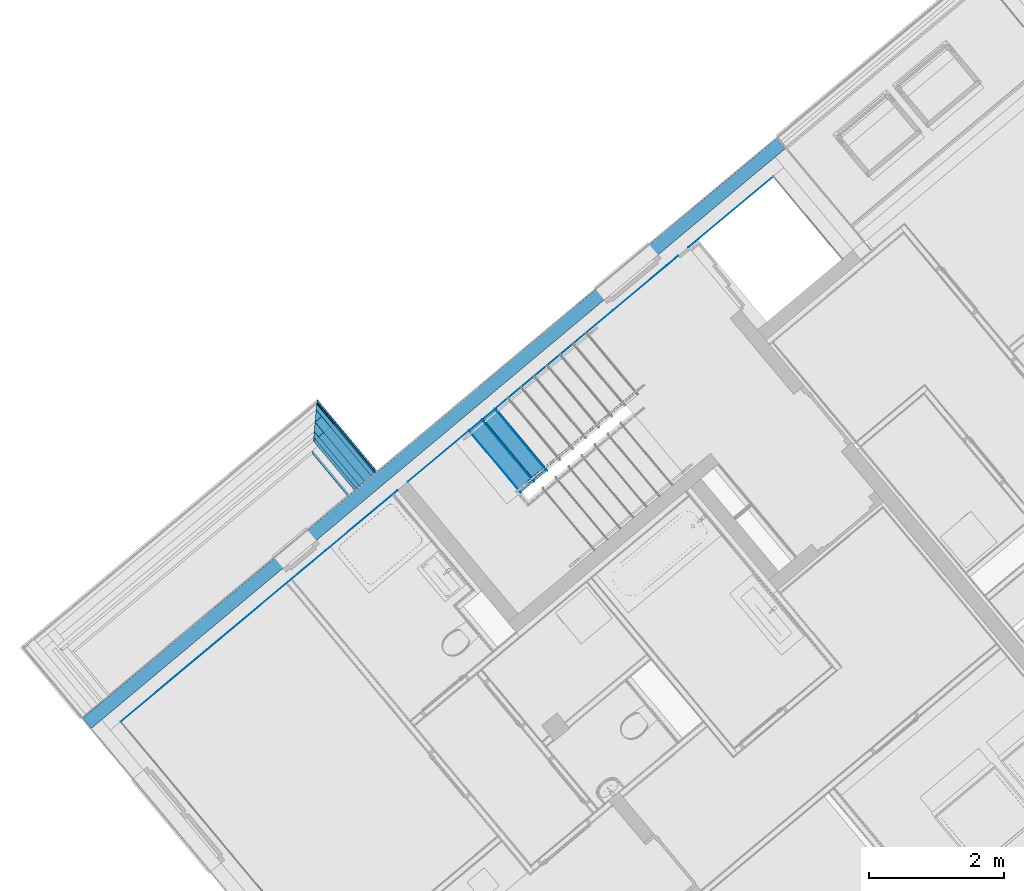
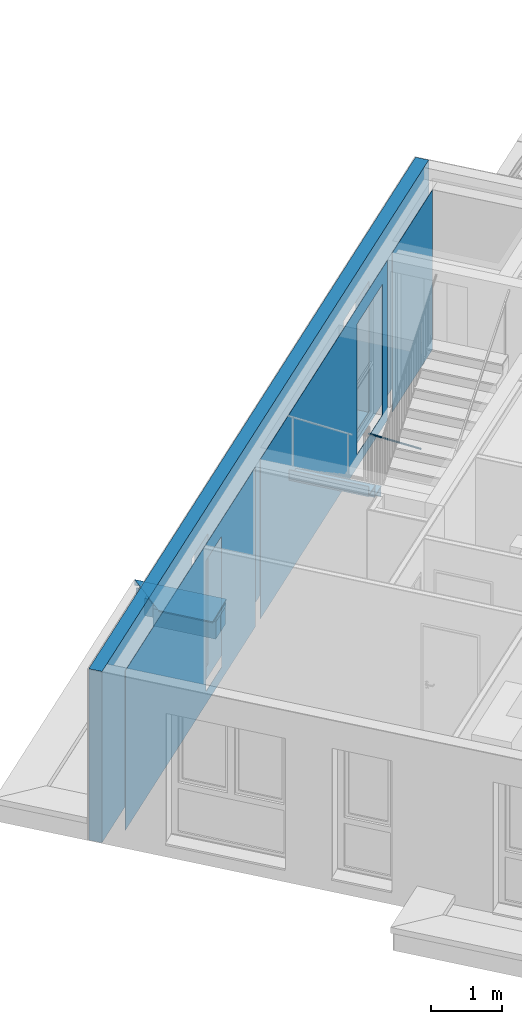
# One storey, part 34 of 61: 16 building element parts, 2 openings, 4 elements without a shape of their own.
"""IFC4 building model written with IfcOpenShell, lengths in metres."""

import ifcopenshell
import ifcopenshell.guid

model = None  # the IFC model being written
_history = None  # IfcOwnerHistory: only IFC2X3 demands one
_inside = {}  # id of a spatial element -> (the spatial element, [elements in it])
_under = {}  # id of a project, library or spatial element -> (it, [spatial elements below it])
_declared = {}  # id of a project -> (the project, [libraries it declares])
_typed = {}  # id of a type object -> (the type object, [elements of that type])
_made_of = {}  # id of a material, layer set ... -> (it, [elements and type objects made of it])


def new_model(schema):
    """Start an empty IFC model of exactly this schema.

    Asked for "IFC4X3", IfcOpenShell would pick the latest addendum, in which some entities
    have other attributes; the version numbers below select the first issue.
    IFC2X3 requires an IfcOwnerHistory on every rooted entity: one is made here for all.
    """
    global model, _history
    if schema == "IFC4X3":
        model = ifcopenshell.file(schema_version=(4, 3, 0, 0))
    else:
        model = ifcopenshell.file(schema=schema)
    _inside.clear()
    _under.clear()
    _declared.clear()
    _typed.clear()
    _made_of.clear()
    _history = None
    if model.schema == "IFC2X3":
        org = make("IfcOrganization", Name="unknown")
        user = make(
            "IfcPersonAndOrganization",
            ThePerson=make("IfcPerson", FamilyName="unknown"),
            TheOrganization=org,
        )
        app = make(
            "IfcApplication",
            ApplicationDeveloper=org,
            Version="unknown",
            ApplicationFullName="unknown",
            ApplicationIdentifier="unknown",
        )
        _history = make(
            "IfcOwnerHistory",
            OwningUser=user,
            OwningApplication=app,
            ChangeAction="ADDED",
            CreationDate=0,
        )
    return model


def make(cls, **values):
    """One entity of the class cls with the attributes given. An attribute that is None is left unset."""
    return model.create_entity(
        cls, **{name: value for name, value in values.items() if value is not None}
    )


def entity(cls, *values):
    """Any entity or typed value of the class cls, its attributes in the order of the schema. None: left unset."""
    e = model.create_entity(cls)
    for i, value in enumerate(values):
        if value is not None:
            e[i] = value
    return e


def rooted(cls, **values):
    """An entity with a GlobalId (a new one), such as an element, a storey or a relation."""
    return make(cls, GlobalId=ifcopenshell.guid.new(), OwnerHistory=_history, **values)


def si_unit(unit_type, name, prefix=None):
    """IfcSIUnit, for example si_unit("LENGTHUNIT", "METRE", prefix="MILLI")."""
    return make("IfcSIUnit", UnitType=unit_type, Prefix=prefix, Name=name)


def converted_unit(unit_type, name, factor, base, dimensions=None, offset=None):
    """IfcConversionBasedUnit, such as the inch: factor (a typed value) times the base unit."""
    return make(
        "IfcConversionBasedUnit"
        if offset is None
        else "IfcConversionBasedUnitWithOffset",
        ConversionOffset=offset,
        Dimensions=None
        if dimensions is None
        else entity("IfcDimensionalExponents", *dimensions),
        UnitType=unit_type,
        Name=name,
        ConversionFactor=make(
            "IfcMeasureWithUnit", ValueComponent=factor, UnitComponent=base
        ),
    )


def derived_unit(unit_type, elements):
    """IfcDerivedUnit: a product of units, each with its exponent."""
    return make(
        "IfcDerivedUnit",
        Elements=[
            make("IfcDerivedUnitElement", Unit=unit, Exponent=power)
            for unit, power in elements
        ],
        UnitType=unit_type,
    )


def assignment(units):
    """IfcUnitAssignment: the units of a project."""
    return None if units is None else make("IfcUnitAssignment", Units=units)


def point(xyz):
    """IfcCartesianPoint."""
    return None if xyz is None else make("IfcCartesianPoint", Coordinates=xyz)


def direction(xyz):
    """IfcDirection."""
    return None if xyz is None else make("IfcDirection", DirectionRatios=xyz)


def frame(location, z_axis=None, x_axis=None):
    """IfcAxis2Placement3D, a coordinate frame: its origin and axes. An axis left out is left unset."""
    return make(
        "IfcAxis2Placement3D",
        Location=point(location),
        Axis=direction(z_axis),
        RefDirection=direction(x_axis),
    )


def origin_with_axes():
    """The frame at (0, 0, 0) with the z axis (0, 0, 1) and the x axis (1, 0, 0) written out."""
    return frame((0.0, 0.0, 0.0), z_axis=(0.0, 0.0, 1.0), x_axis=(1.0, 0.0, 0.0))


def place(relative_to, where):
    """IfcLocalPlacement: puts the frame where relative to a parent placement (None: the world)."""
    return make(
        "IfcLocalPlacement", PlacementRelTo=relative_to, RelativePlacement=where
    )


def context(
    kind, dimensions, precision=None, world=None, true_north=None, identifier=None
):
    """IfcGeometricRepresentationContext, for example the 3D "Model" context."""
    return make(
        "IfcGeometricRepresentationContext",
        ContextIdentifier=identifier,
        ContextType=kind,
        CoordinateSpaceDimension=dimensions,
        Precision=precision,
        WorldCoordinateSystem=world,
        TrueNorth=true_north,
    )


def subcontext(parent, identifier, kind, view, scale=None):
    """IfcGeometricRepresentationSubContext, for example "Body" below "Model"."""
    return make(
        "IfcGeometricRepresentationSubContext",
        ContextIdentifier=identifier,
        ContextType=kind,
        ParentContext=parent,
        TargetScale=scale,
        TargetView=view,
    )


def project(units=None, contexts=None):
    """IfcProject with its units and contexts."""
    return rooted(
        "IfcProject",
        Name="project",
        RepresentationContexts=contexts,
        UnitsInContext=assignment(units),
    )


def spatial(cls, under=None, at=None, **own):
    """A site, building, storey or space (cls), placed at a placement, below another one or the project."""
    s = rooted(cls, ObjectPlacement=at, **own)
    if under is not None:
        _under.setdefault(under.id(), (under, []))[1].append(s)
    return s


def point_list(points):
    """IfcCartesianPointList2D or 3D."""
    cls = (
        "IfcCartesianPointList2D" if len(points[0]) == 2 else "IfcCartesianPointList3D"
    )
    return make(cls, CoordList=points)


def polygons(points, faces, closed=None, point_numbers=None):
    """IfcPolygonalFaceSet: a face is its outer loop, then its inner loops; points numbered from 1."""
    made = []
    for loops in faces:
        if len(loops) == 1:
            made.append(make("IfcIndexedPolygonalFace", CoordIndex=loops[0]))
        else:
            made.append(
                make(
                    "IfcIndexedPolygonalFaceWithVoids",
                    CoordIndex=loops[0],
                    InnerCoordIndices=loops[1:],
                )
            )
    return make(
        "IfcPolygonalFaceSet",
        Coordinates=point_list(points),
        Closed=closed,
        Faces=made,
        PnIndex=point_numbers,
    )


def shape(context_of_items, identifier, shape_type, items):
    """IfcShapeRepresentation: the items that make up one representation, for example the "Body"."""
    return make(
        "IfcShapeRepresentation",
        ContextOfItems=context_of_items,
        RepresentationIdentifier=identifier,
        RepresentationType=shape_type,
        Items=items,
    )


def material(Name=None, Category=None):
    """IfcMaterial."""
    return make("IfcMaterial", Name=Name, Category=Category)


def made_of(thing, what):
    """Note that an element or type object is made of a material, layer set ...; save() writes the relation."""
    if what is not None:
        _made_of.setdefault(what.id(), (what, []))[1].append(thing)
    return thing


def type_object(cls, material=None, **own):
    """A type object (cls), such as IfcWallType, which elements share."""
    return made_of(rooted(cls, **own), material)


def element(
    cls,
    number,
    at=None,
    inside=None,
    cuts=None,
    type_object=None,
    material=None,
    context=None,
    identifier="Body",
    shape_type=None,
    held_by="IfcProductDefinitionShape",
    body=None,
    shapes=None,
    **own,
):
    """One element of the class cls, such as IfcWall. Its Tag is "e" and its number.

    at: its placement. inside: the storey or other place that contains it. cuts: it is an
    opening in that element (IfcRelVoidsElement). A single representation is given by context,
    identifier, shape_type and body (its items); several are given by shapes. held_by: the class
    of the entity that holds the representations. save() writes the other relations.
    """
    e = rooted(cls, Tag="e%d" % number, ObjectPlacement=at, **own)
    if body is not None:
        shapes = [shape(context, identifier, shape_type, body)]
    if shapes is not None:
        e.Representation = make(held_by, Representations=shapes)
    if inside is not None:
        _inside.setdefault(inside.id(), (inside, []))[1].append(e)
    if cuts is not None:
        rooted(
            "IfcRelVoidsElement", RelatingBuildingElement=cuts, RelatedOpeningElement=e
        )
    if type_object is not None:
        _typed.setdefault(type_object.id(), (type_object, []))[1].append(e)
    return made_of(e, material)


def aggregate(whole, parts):
    """IfcRelAggregates: a whole, such as a stair, and the parts it consists of."""
    return rooted("IfcRelAggregates", RelatingObject=whole, RelatedObjects=parts)


def save(model, path):
    """Write the relations noted so far, then the file.

    IfcRelAggregates (storeys below a building ...), IfcRelContainedInSpatialStructure (elements
    in a storey), IfcRelDefinesByType, IfcRelAssociatesMaterial and IfcRelDeclares: one each for
    every whole, place, type object, material and project.
    """
    for whole, parts in _under.values():
        aggregate(whole, parts)
    for where, things in _inside.values():
        rooted(
            "IfcRelContainedInSpatialStructure",
            RelatedElements=things,
            RelatingStructure=where,
        )
    for kind, things in _typed.values():
        rooted("IfcRelDefinesByType", RelatedObjects=things, RelatingType=kind)
    for what, things in _made_of.values():
        rooted("IfcRelAssociatesMaterial", RelatedObjects=things, RelatingMaterial=what)
    for by, libraries in _declared.values():
        rooted("IfcRelDeclares", RelatingContext=by, RelatedDefinitions=libraries)
    model.write(path)


model = new_model("IFC4")

# Units and contexts
model_context = context("Model", 3, precision=1e-05, world=origin_with_axes(), true_north=direction((0.0, 1.0)))
body_context = subcontext(model_context, "Body", "Model", "MODEL_VIEW")
ifc_project = project(units=[si_unit("LENGTHUNIT", "METRE"), si_unit("AREAUNIT", "SQUARE_METRE"), si_unit("VOLUMEUNIT", "CUBIC_METRE"), converted_unit("PLANEANGLEUNIT", "DEGREE", entity("IfcPlaneAngleMeasure", 0.0174532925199), si_unit("PLANEANGLEUNIT", "RADIAN"), dimensions=[0, 0, 0, 0, 0, 0, 0]), converted_unit("TIMEUNIT", "Year", entity("IfcTimeMeasure", 31556926.0), si_unit("TIMEUNIT", "SECOND"), dimensions=[0, 0, 1, 0, 0, 0, 0]), si_unit("MASSUNIT", "GRAM", prefix="KILO"), si_unit("THERMODYNAMICTEMPERATUREUNIT", "DEGREE_CELSIUS"), si_unit("LUMINOUSINTENSITYUNIT", "LUMEN"), si_unit("ENERGYUNIT", "JOULE", prefix="MEGA"), derived_unit("THERMALCONDUCTANCEUNIT", [(si_unit("POWERUNIT", "WATT"), 1), (si_unit("LENGTHUNIT", "METRE"), -1), (si_unit("THERMODYNAMICTEMPERATUREUNIT", "KELVIN"), -1)]), derived_unit("SPECIFICHEATCAPACITYUNIT", [(si_unit("ENERGYUNIT", "JOULE"), 1), (si_unit("MASSUNIT", "GRAM", prefix="KILO"), -1), (si_unit("THERMODYNAMICTEMPERATUREUNIT", "KELVIN"), -1)]), derived_unit("MASSDENSITYUNIT", [(si_unit("MASSUNIT", "GRAM", prefix="KILO"), 1), (si_unit("VOLUMEUNIT", "CUBIC_METRE"), -1)])], contexts=[model_context])

# Site, building, storey
site_placement = place(None, frame((-0.00153261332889, -0.00661245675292, 0.0), z_axis=(0.0, 0.0, 1.0), x_axis=(1.0, 0.0, 0.0)))
site = spatial("IfcSite", under=ifc_project, at=site_placement, Name="Gelände", CompositionType="ELEMENT")
building_placement = place(site_placement, origin_with_axes())
building = spatial("IfcBuilding", under=site, at=building_placement, Name="Gebäude", CompositionType="ELEMENT")
storey_placement = place(building_placement, frame((0.0, 0.0, 5.7), z_axis=(0.0, 0.0, 1.0), x_axis=(1.0, 0.0, 0.0)))
storey = spatial("IfcBuildingStorey", under=building, at=storey_placement, Name="DG1", CompositionType="ELEMENT", Elevation=5.7)

# Wall, openings, building element parts
wall_type_1 = type_object("IfcWallType", Name="AW EG 420", PredefinedType="NOTDEFINED")
wall_1_placement = place(storey_placement, frame((-8.68307438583, 19.0183290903, 0.0), z_axis=(0.0, 0.0, 1.0), x_axis=(0.767365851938, 0.641209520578, 0.0)))
wall_1 = element("IfcWall", 1, at=wall_1_placement, inside=storey, type_object=wall_type_1, Name="Wand-002", PredefinedType="NOTDEFINED")
opening_1_placement = place(wall_1_placement, frame((10.4679738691, 0.0, 0.22), z_axis=(0.0, 0.0, 1.0), x_axis=(1.0, 0.0, 0.0)))
element("IfcOpeningElement", 2, at=opening_1_placement, cuts=wall_1, Name="Fenster-001", context=body_context, identifier="Reference", shape_type="Tessellation", body=[
    polygons([(-0.525, -0.215, 0.0), (-0.525, -0.215, 2.26), (-0.525, 6.42322125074, 2.26), (-0.525, 6.42322125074, 0.0), (-0.525, -6.84322125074, 0.0), (-0.525, -6.84322125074, 2.26), (0.525, -0.215, 2.26), (0.525, 6.42322125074, 2.26), (0.525, -6.84322125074, 2.26), (0.525, 6.42322125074, 0.0), (0.525, -0.215, 0.0), (0.525, -6.84322125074, 0.0)], [[[1, 2, 3, 4]], [[2, 1, 5, 6]], [[7, 8, 3, 2, 6, 9]], [[8, 10, 4, 3]], [[1, 4, 10, 11, 12, 5]], [[6, 5, 12, 9]], [[7, 11, 10, 8]], [[11, 7, 9, 12]]], closed=True),
])
opening_2_placement = place(wall_1_placement, frame((4.0502535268, 0.0, 0.22), z_axis=(0.0, 0.0, 1.0), x_axis=(1.0, 0.0, 0.0)))
element("IfcOpeningElement", 3, at=opening_2_placement, cuts=wall_1, Name="Fenster-001", context=body_context, identifier="Reference", shape_type="Tessellation", body=[
    polygons([(-0.325, -0.215, 0.0), (-0.325, -0.215, 2.26), (-0.325, 6.42322125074, 2.26), (-0.325, 6.42322125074, 0.0), (-0.325, -6.84322125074, 0.0), (-0.325, -6.84322125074, 2.26), (0.325, -0.215, 2.26), (0.325, 6.42322125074, 2.26), (0.325, -6.84322125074, 2.26), (0.325, 6.42322125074, 0.0), (0.325, -0.215, 0.0), (0.325, -6.84322125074, 0.0)], [[[1, 2, 3, 4]], [[2, 1, 5, 6]], [[7, 8, 3, 2, 6, 9]], [[8, 10, 4, 3]], [[1, 4, 10, 11, 12, 5]], [[6, 5, 12, 9]], [[7, 11, 10, 8]], [[11, 7, 9, 12]]], closed=True),
])
ifc_material_1 = material(Name="EPS 1")
building_element_part_1_placement = place(wall_1_placement, origin_with_axes())
building_element_part_1 = element("IfcBuildingElementPart", 4, at=building_element_part_1_placement, material=ifc_material_1, Name="EPS 1", PredefinedType="NOTDEFINED", context=body_context, shape_type="Tessellation", body=[
    polygons([(0.015, -0.015, 0.0), (0.015, -0.015, 2.96), (13.457173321, -0.015, 2.96), (13.457173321, -0.015, 0.0), (10.9929738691, -0.015, 0.22), (10.9929738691, -0.015, 2.48), (9.94297386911, -0.015, 2.48), (9.94297386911, -0.015, 0.22), (3.7252535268, -0.015, 0.22), (4.3752535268, -0.015, 0.22), (4.3752535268, -0.015, 2.48), (3.7252535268, -0.015, 2.48), (0.0149999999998, -0.215, 0.0), (0.0149999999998, -0.215, 2.96), (13.4571733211, -0.215, 2.96), (13.4571733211, -0.215, 0.0), (10.9929738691, -0.215, 2.48), (10.9929738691, -0.215, 0.22), (9.94297386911, -0.215, 2.48), (9.94297386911, -0.215, 0.22), (3.7252535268, -0.215, 0.22), (4.3752535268, -0.215, 0.22), (4.3752535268, -0.215, 2.48), (3.7252535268, -0.215, 2.48)], [[[1, 2, 3, 4], [5, 6, 7, 8], [9, 10, 11, 12]], [[2, 1, 13, 14]], [[2, 14, 15, 3]], [[16, 4, 3, 15]], [[13, 1, 4, 16]], [[17, 6, 5, 18]], [[19, 7, 6, 17]], [[20, 8, 7, 19]], [[18, 5, 8, 20]], [[21, 22, 10, 9]], [[22, 23, 11, 10]], [[23, 24, 12, 11]], [[24, 21, 9, 12]], [[14, 13, 16, 15], [19, 17, 18, 20], [21, 24, 23, 22]]], closed=True),
])
ifc_material_2 = material(Name="Zementputz")
building_element_part_2_placement = place(wall_1_placement, origin_with_axes())
building_element_part_2 = element("IfcBuildingElementPart", 5, at=building_element_part_2_placement, material=ifc_material_2, Name="Zementputz", PredefinedType="NOTDEFINED", context=body_context, shape_type="Tessellation", body=[
    polygons([(5.77520574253, -0.415, 2.76), (5.77520574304, -0.415, 0.0), (0.415, -0.415, 0.0), (0.415, -0.415, 2.76), (3.7252535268, -0.415, 0.22), (4.3752535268, -0.415, 0.22), (4.3752535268, -0.415, 2.48), (3.7252535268, -0.415, 2.48), (5.77520574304, -0.42, 0.0), (5.77520574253, -0.42, 2.76), (0.415, -0.42, 0.0), (0.415, -0.42, 2.76), (3.7252535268, -0.42, 0.22), (4.3752535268, -0.42, 0.22), (4.3752535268, -0.42, 2.48), (3.7252535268, -0.42, 2.48)], [[[1, 2, 3, 4], [5, 6, 7, 8]], [[9, 2, 1, 10]], [[11, 3, 2, 9]], [[4, 3, 11, 12]], [[1, 4, 12, 10]], [[13, 14, 6, 5]], [[14, 15, 7, 6]], [[15, 16, 8, 7]], [[16, 13, 5, 8]], [[11, 9, 10, 12], [13, 16, 15, 14]]], closed=True),
    polygons([(11.2076041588, -0.415, 0.0), (5.97520574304, -0.415, 0.0), (5.97520574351, -0.415, 2.76), (11.2076041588, -0.415, 2.76), (9.94297386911, -0.415, 0.22), (10.9929738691, -0.415, 0.22), (10.9929738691, -0.415, 2.48), (9.94297386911, -0.415, 2.48), (11.2076038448, -0.42, 0.0), (5.97520574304, -0.42, 0.0), (5.97520574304, -0.42, 2.76), (9.19449154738, -0.419999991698, 2.76), (11.2076038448, -0.42, 2.76), (9.94297386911, -0.419999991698, 0.22), (10.9929738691, -0.419999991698, 0.22), (10.9929738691, -0.419999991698, 2.48), (9.94297386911, -0.419999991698, 2.48)], [[[1, 2, 3, 4], [5, 6, 7, 8]], [[1, 9, 10, 2]], [[11, 3, 2, 10]], [[11, 12, 13, 4, 3]], [[1, 4, 13, 9]], [[14, 15, 6, 5]], [[15, 16, 7, 6]], [[16, 17, 8, 7]], [[17, 14, 5, 8]], [[10, 9, 13, 12, 11], [14, 17, 16, 15]]], closed=True),
    polygons([(13.0571733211, -0.415, 2.76), (13.0571733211, -0.42, 2.76), (13.0571733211, -0.42, 0.0), (13.0571733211, -0.415, 0.0), (13.0521733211, -0.42, 2.76), (11.4076067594, -0.415, 2.76), (11.4076038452, -0.42, 2.76), (11.4076038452, -0.42, 0.0), (11.4076041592, -0.415, 0.0)], [[[1, 2, 3, 4]], [[5, 2, 1, 6, 7]], [[5, 7, 8, 3, 2]], [[8, 9, 4, 3]], [[6, 1, 4, 9]], [[7, 6, 9, 8]]], closed=True),
])
aggregate(wall_1, [building_element_part_1, building_element_part_2])

# Space
space_placement = place(storey_placement, frame((0.280300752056, 22.6307267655, 0.22), z_axis=(0.0, 0.0, 1.0), x_axis=(-0.641244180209, 0.767336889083, 0.0)))
space = spatial("IfcSpace", under=storey, at=space_placement, CompositionType="ELEMENT", PredefinedType="NOTDEFINED")

# Railing, building element part
railing_type = type_object("IfcRailingType", Name="Geländerart", PredefinedType="NOTDEFINED")
railing_placement = place(space_placement, frame((1.35982515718, -0.251690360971, -0.17), z_axis=(0.0, 0.0, 1.0), x_axis=(-0.641244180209, -0.767336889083, 0.0)))
railing = element("IfcRailing", 6, at=railing_placement, inside=space, type_object=railing_type, Name="Geländer - 001", PredefinedType="NOTDEFINED")
ifc_material_3 = material(Name="BEKLEIDUNG")
building_element_part_3_placement = place(railing_placement, origin_with_axes())
building_element_part_3 = element("IfcBuildingElementPart", 7, at=building_element_part_3_placement, material=ifc_material_3, Name="BEKLEIDUNG", PredefinedType="NOTDEFINED", context=body_context, shape_type="Tessellation", body=[
    polygons([(-0.0295187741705, 0.0209453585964, 0.88817063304), (-0.0284358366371, 0.0221471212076, 0.890224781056), (-1.65968848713, -1.34078287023, 2.5475849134), (-1.66154123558, -1.34262781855, 2.54631289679), (-0.0308939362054, 0.0200933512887, 0.886116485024), (-0.0325195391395, 0.0196169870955, 0.884124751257), (-0.03434618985, 0.0195307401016, 0.88225594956), (-0.0363183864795, 0.0198372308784, 0.880566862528), (-0.0383762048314, 0.0205271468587, 0.879108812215), (-0.0404571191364, 0.0215795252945, 0.877926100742), (-0.0424979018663, 0.0229623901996, 0.877054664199), (-0.0444365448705, 0.0246337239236, 0.876520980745), (-0.0462141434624, 0.026542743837, 0.87634126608), (-0.0477766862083, 0.0286314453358, 0.876520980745), (-0.0490766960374, 0.030836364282, 0.877054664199), (-0.0500746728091, 0.0330905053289, 0.877926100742), (-0.050740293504, 0.0353253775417, 0.879108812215), (-0.0510533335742, 0.0374730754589, 0.880566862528), (-0.0510042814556, 0.0394683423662, 0.88225594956), (-0.0505946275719, 0.0412505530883, 0.884124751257), (-0.0498368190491, 0.0427655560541, 0.886116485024), (-0.0487538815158, 0.0439673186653, 0.88817063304), (-0.0473787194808, 0.0448193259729, 0.890224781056), (-0.0457531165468, 0.0452956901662, 0.892216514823), (-0.0439264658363, 0.04538193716, 0.89408531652), (-0.0419542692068, 0.0450754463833, 0.895774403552), (-0.0398964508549, 0.044385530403, 0.897232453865), (-0.0378155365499, 0.0433331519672, 0.898415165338), (-0.03577475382, 0.0419502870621, 0.899286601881), (-0.0338361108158, 0.0402789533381, 0.899820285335), (-0.0320585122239, 0.0383699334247, 0.9), (-0.030495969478, 0.0362812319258, 0.899820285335), (-0.0291959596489, 0.0340763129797, 0.899286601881), (-0.0281979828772, 0.0318221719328, 0.898415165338), (-0.0275323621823, 0.02958729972, 0.897232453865), (-0.0272193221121, 0.0274396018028, 0.895774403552), (-0.0272683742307, 0.0254443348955, 0.89408531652), (-0.0276780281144, 0.0236621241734, 0.892216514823), (-1.658184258, -1.33864422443, 2.54881828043), (-1.65707425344, -1.33627686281, 2.54997552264), (-1.65639220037, -1.33375271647, 2.55102147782), (-1.65615882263, -1.33114848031, 2.55192436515), (-1.65638121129, -1.32854328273, 2.55265675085), (-1.65705260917, -1.32601628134, 2.55319638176), (-1.6581526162, -1.3236442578, 2.55352686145), (-1.65964780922, -1.32149928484, 2.55363814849), (-1.66149275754, -1.31964653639, 2.55352686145), (-1.66363140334, -1.31814230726, 2.55319638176), (-1.66599876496, -1.31703230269, 2.55265675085), (-1.6685229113, -1.31635024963, 2.55192436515), (-1.67112714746, -1.31611687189, 2.55102147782), (-1.67373234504, -1.31633926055, 2.54997552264), (-1.67625934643, -1.31701065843, 2.54881828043), (-1.67863136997, -1.31811066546, 2.5475849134), (-1.68077634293, -1.31960585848, 2.54631289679), (-1.68262909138, -1.3214508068, 2.54504088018), (-1.68413332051, -1.3235894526, 2.54380751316), (-1.68524332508, -1.32595681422, 2.54265027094), (-1.68592537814, -1.32848096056, 2.54160431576), (-1.68615875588, -1.33108519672, 2.54070142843), (-1.68593636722, -1.3336903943, 2.53996904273), (-1.68526496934, -1.33621739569, 2.53942941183), (-1.68416496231, -1.33858941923, 2.53909893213), (-1.68266976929, -1.34073439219, 2.53898764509), (-1.68082482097, -1.34258714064, 2.53909893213), (-1.67868617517, -1.34409136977, 2.53942941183), (-1.67631881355, -1.34520137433, 2.53996904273), (-1.67379466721, -1.3458834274, 2.54070142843), (-1.67119043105, -1.34611680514, 2.54160431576), (-1.66858523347, -1.34589441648, 2.54265027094), (-1.66605823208, -1.3452230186, 2.54380751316), (-1.66368620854, -1.34412301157, 2.54504088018)], [[[1, 2, 3, 4]], [[1, 5, 6, 7, 8, 9, 10, 11, 12, 13, 14, 15, 16, 17, 18, 19, 20, 21, 22, 23, 24, 25, 26, 27, 28, 29, 30, 31, 32, 33, 34, 35, 36, 37, 38, 2]], [[2, 38, 39, 3]], [[4, 3, 39, 40, 41, 42, 43, 44, 45, 46, 47, 48, 49, 50, 51, 52, 53, 54, 55, 56, 57, 58, 59, 60, 61, 62, 63, 64, 65, 66, 67, 68, 69, 70, 71, 72]], [[5, 1, 4, 72]], [[6, 5, 72, 71]], [[7, 6, 71, 70]], [[8, 7, 70, 69]], [[9, 8, 69, 68]], [[10, 9, 68, 67]], [[11, 10, 67, 66]], [[12, 11, 66, 65]], [[13, 12, 65, 64]], [[14, 13, 64, 63]], [[15, 14, 63, 62]], [[16, 15, 62, 61]], [[17, 16, 61, 60]], [[18, 17, 60, 59]], [[19, 18, 59, 58]], [[20, 19, 58, 57]], [[21, 20, 57, 56]], [[22, 21, 56, 55]], [[23, 22, 55, 54]], [[24, 23, 54, 53]], [[25, 24, 53, 52]], [[26, 25, 52, 51]], [[27, 26, 51, 50]], [[28, 27, 50, 49]], [[29, 28, 49, 48]], [[30, 29, 48, 47]], [[31, 30, 47, 46]], [[32, 31, 46, 45]], [[33, 32, 45, 44]], [[34, 33, 44, 43]], [[35, 34, 43, 42]], [[36, 35, 42, 41]], [[37, 36, 41, 40]], [[38, 37, 40, 39]]], closed=True),
])
aggregate(railing, [building_element_part_3])

# Stair, building element parts
stair_type = type_object("IfcStairType", Name="Treppentyp", PredefinedType="NOTDEFINED")
stair_placement = place(space_placement, frame((2.55980055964, -0.50704333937, -0.17), z_axis=(0.0, 0.0, 1.0), x_axis=(-0.641244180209, -0.767336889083, 0.0)))
stair = element("IfcStair", 8, at=stair_placement, inside=space, type_object=stair_type, Name="Treppe - 001", PredefinedType="NOTDEFINED")
building_element_part_4_placement = place(stair_placement, origin_with_axes())
building_element_part_4 = element("IfcBuildingElementPart", 9, at=building_element_part_4_placement, material=ifc_material_3, Name="BEKLEIDUNG", PredefinedType="NOTDEFINED", context=body_context, shape_type="Tessellation", body=[
    polygons([(-1.55940773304, -1.30290275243, 1.39147058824), (-1.56708171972, -1.30931445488, 1.39147058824), (-0.797677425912, -2.23019285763, 1.39147058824), (-0.790003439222, -2.22378115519, 1.39147058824), (-1.55940773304, -1.30290275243, 1.23941176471), (-1.56708171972, -1.30931445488, 1.23941176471), (-0.797677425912, -2.23019285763, 1.23941176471), (-0.790003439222, -2.22378115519, 1.23941176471)], [[[1, 2, 3, 4]], [[1, 5, 6, 2]], [[2, 6, 7, 3]], [[4, 3, 7, 8]], [[5, 1, 4, 8]], [[6, 5, 8, 7]]], closed=True),
])
building_element_part_5_placement = place(stair_placement, origin_with_axes())
building_element_part_5 = element("IfcBuildingElementPart", 10, at=building_element_part_5_placement, material=ifc_material_3, Name="BEKLEIDUNG", PredefinedType="NOTDEFINED", context=body_context, shape_type="Tessellation", body=[
    polygons([(-1.75255458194, -1.46427912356, 1.56852941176), (-1.76022856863, -1.47069082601, 1.56852941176), (-0.990824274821, -2.39156922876, 1.56852941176), (-0.983150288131, -2.38515752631, 1.56852941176), (-1.75255458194, -1.46427912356, 1.41647058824), (-1.76022856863, -1.47069082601, 1.41647058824), (-0.990824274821, -2.39156922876, 1.41647058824), (-0.983150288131, -2.38515752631, 1.41647058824)], [[[1, 2, 3, 4]], [[1, 5, 6, 2]], [[2, 6, 7, 3]], [[4, 3, 7, 8]], [[5, 1, 4, 8]], [[6, 5, 8, 7]]], closed=True),
])
building_element_part_6_placement = place(stair_placement, origin_with_axes())
building_element_part_6 = element("IfcBuildingElementPart", 11, at=building_element_part_6_placement, material=ifc_material_3, Name="BEKLEIDUNG", PredefinedType="NOTDEFINED", context=body_context, shape_type="Tessellation", body=[
    polygons([(-1.94570143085, -1.62565549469, 1.74558823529), (-1.95337541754, -1.63206719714, 1.74558823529), (-1.18397112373, -2.55294559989, 1.74558823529), (-1.17629713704, -2.54653389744, 1.74558823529), (-1.94570143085, -1.62565549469, 1.59352941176), (-1.95337541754, -1.63206719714, 1.59352941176), (-1.18397112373, -2.55294559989, 1.59352941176), (-1.17629713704, -2.54653389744, 1.59352941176)], [[[1, 2, 3, 4]], [[1, 5, 6, 2]], [[2, 6, 7, 3]], [[4, 3, 7, 8]], [[5, 1, 4, 8]], [[6, 5, 8, 7]]], closed=True),
])
building_element_part_7_placement = place(stair_placement, origin_with_axes())
building_element_part_7 = element("IfcBuildingElementPart", 12, at=building_element_part_7_placement, material=ifc_material_3, Name="BEKLEIDUNG", PredefinedType="NOTDEFINED", context=body_context, shape_type="Tessellation", body=[
    polygons([(-0.778492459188, -2.21416360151, 1.39147058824), (-1.547896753, -1.29328519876, 1.39147058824), (-1.547896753, -1.29328519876, 1.41647058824), (-0.778492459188, -2.21416360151, 1.41647058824), (-0.99082427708, -2.39156923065, 1.39147058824), (-1.76022856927, -1.47069082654, 1.39147058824), (-1.76022856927, -1.47069082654, 1.41647058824), (-0.99082427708, -2.39156923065, 1.41647058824)], [[[1, 2, 3, 4]], [[1, 5, 6, 2]], [[2, 6, 7, 3]], [[4, 3, 7, 8]], [[5, 1, 4, 8]], [[6, 5, 8, 7]]], closed=True),
])
building_element_part_8_placement = place(stair_placement, origin_with_axes())
building_element_part_8 = element("IfcBuildingElementPart", 13, at=building_element_part_8_placement, material=ifc_material_3, Name="BEKLEIDUNG", PredefinedType="NOTDEFINED", context=body_context, shape_type="Tessellation", body=[
    polygons([(-0.971639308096, -2.37553997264, 1.56852941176), (-1.74104360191, -1.45466156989, 1.56852941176), (-1.74104360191, -1.45466156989, 1.59352941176), (-0.971639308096, -2.37553997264, 1.59352941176), (-1.16478615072, -2.53691633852, 1.56852941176), (-1.18397113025, -2.55294559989, 1.56852941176), (-1.95337541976, -1.63206719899, 1.56852941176), (-1.93419045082, -1.61603794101, 1.56852941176), (-1.93419045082, -1.61603794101, 1.59352941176), (-1.95337541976, -1.63206719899, 1.59352941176), (-1.18397113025, -2.55294559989, 1.59352941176), (-1.16478615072, -2.53691633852, 1.59352941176)], [[[1, 2, 3, 4]], [[1, 5, 6, 7, 8, 2]], [[2, 8, 9, 3]], [[4, 3, 9, 10, 11, 12]], [[5, 1, 4, 12]], [[6, 5, 12, 11]], [[7, 6, 11, 10]], [[8, 7, 10, 9]]], closed=True),
])
aggregate(stair, [building_element_part_4, building_element_part_5, building_element_part_6, building_element_part_7, building_element_part_8])

# Wall, building element parts
wall_type_2 = type_object("IfcWallType", Name="Bauteil - Attika Terrasse 1.DG 574 x 410", PredefinedType="NOTDEFINED")
wall_2_placement = place(storey_placement, frame((-5.20937569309, 23.4149390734, -0.2), z_axis=(0.0, 0.0, 1.0), x_axis=(0.641209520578, -0.767365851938, 0.0)))
wall_2 = element("IfcWall", 14, at=wall_2_placement, inside=storey, type_object=wall_type_2, Name="Wand-005", PredefinedType="NOTDEFINED")
building_element_part_9_placement = place(wall_2_placement, origin_with_axes())
building_element_part_9 = element("IfcBuildingElementPart", 15, at=building_element_part_9_placement, material=ifc_material_2, Name="Zementputz", PredefinedType="NOTDEFINED", context=body_context, shape_type="Tessellation", body=[
    polygons([(-0.199999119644, 0.214999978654, 0.498822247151), (-0.199999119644, 0.214999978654, 0.499999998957), (1.14643969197, 0.214999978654, 0.499999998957), (1.14643969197, 0.214999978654, 0.2), (-0.199999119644, 0.214999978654, 0.2), (-0.199999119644, 0.214999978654, 0.335), (-0.199999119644, 0.214999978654, 0.488695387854), (-0.199999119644, 0.214999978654, 0.49100648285), (-0.199999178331, 0.199999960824, 0.499999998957), (-0.199999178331, 0.199999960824, 0.498822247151), (1.14643969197, 0.199999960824, 0.499999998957), (1.14643969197, 0.199999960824, 0.2), (-0.199999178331, 0.199999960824, 0.2), (-0.199999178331, 0.199999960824, 0.335), (-0.199999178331, 0.199999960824, 0.488695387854), (-0.199999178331, 0.199999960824, 0.49100648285)], [[[1, 2, 3, 4, 5, 6, 7, 8]], [[9, 2, 1, 10]], [[2, 9, 11, 3]], [[4, 3, 11, 12]], [[13, 5, 4, 12]], [[14, 6, 5, 13]], [[15, 7, 6, 14]], [[16, 8, 7, 15]], [[10, 1, 8, 16]], [[9, 10, 16, 15, 14, 13, 12, 11]]], closed=True),
])
ifc_material_4 = material(Name="Vollholz")
building_element_part_10_placement = place(wall_2_placement, origin_with_axes())
building_element_part_10 = element("IfcBuildingElementPart", 16, at=building_element_part_10_placement, material=ifc_material_4, Name="Vollholz", PredefinedType="NOTDEFINED", context=body_context, shape_type="Tessellation", body=[
    polygons([(-0.130124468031, 0.130124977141, 0.584015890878), (-0.130124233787, 0.189996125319, 0.584015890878), (-0.130124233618, 0.190039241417, 0.575979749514), (-0.130124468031, 0.130124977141, 0.575979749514), (-0.189984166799, 0.189984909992, 0.586106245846), (1.14643969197, 0.189984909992, 0.586106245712), (1.14643969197, 0.190124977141, 0.560000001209), (-0.130124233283, 0.190124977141, 0.560000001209), (-0.13012423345, 0.190082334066, 0.567947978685), (-0.130124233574, 0.190050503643, 0.573880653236), (-0.130124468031, 0.130124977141, 0.573880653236), (-0.130124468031, 0.130124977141, 0.560000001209), (1.14643969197, 0.130124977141, 0.560000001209), (1.14643969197, 0.130124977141, 0.584015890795), (-0.130124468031, 0.130124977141, 0.567947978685)], [[[1, 2, 3, 4]], [[5, 2, 1]], [[2, 5, 6, 7, 8, 9, 10, 3]], [[3, 10, 11, 4]], [[12, 13, 14, 1, 4, 11, 15]], [[5, 1, 14, 6]], [[14, 13, 7, 6]], [[12, 8, 7, 13]], [[12, 15, 9, 8]], [[9, 15, 11, 10]]], closed=True),
])
building_element_part_11_placement = place(wall_2_placement, origin_with_axes())
building_element_part_11 = element("IfcBuildingElementPart", 17, at=building_element_part_11_placement, material=ifc_material_1, Name="EPS 1", PredefinedType="NOTDEFINED", context=body_context, shape_type="Tessellation", body=[
    polygons([(7.82254616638e-07, 0.19999996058, 0.498822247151), (7.82254616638e-07, 0.19999996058, 0.499999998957), (1.14643969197, 0.19999996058, 0.499999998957), (1.14643969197, 0.19999996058, 0.2), (7.82254616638e-07, 0.19999996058, 0.2), (7.82254616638e-07, 0.19999996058, 0.335), (7.82254616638e-07, 0.19999996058, 0.488695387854), (7.82254616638e-07, 0.19999996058, 0.49100648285), (-2.39907649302e-10, 2.39907649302e-10, 0.499999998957), (-2.39911202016e-10, 2.39911202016e-10, 0.498822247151), (1.14643969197, 2.39911202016e-10, 0.499999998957), (1.14643969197, 2.39911202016e-10, 0.2), (-2.39907649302e-10, 2.39911202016e-10, 0.2), (-2.39911202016e-10, 2.39911202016e-10, 0.335), (-2.39911202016e-10, 2.39911202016e-10, 0.488695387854), (-2.39911202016e-10, 2.39911202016e-10, 0.49100648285)], [[[1, 2, 3, 4, 5, 6, 7, 8]], [[9, 2, 1, 10]], [[2, 9, 11, 3]], [[12, 4, 3, 11]], [[13, 5, 4, 12]], [[14, 6, 5, 13]], [[15, 7, 6, 14]], [[16, 8, 7, 15]], [[10, 1, 8, 16]], [[9, 10, 16, 15, 14, 13, 12, 11]]], closed=True),
])
ifc_material_5 = material(Name="Brettschichtholz")
building_element_part_12_placement = place(wall_2_placement, origin_with_axes())
building_element_part_12 = element("IfcBuildingElementPart", 18, at=building_element_part_12_placement, material=ifc_material_5, Name="Brettschichtholz", PredefinedType="NOTDEFINED", context=body_context, shape_type="Tessellation", body=[
    polygons([(0.200000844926, 0.214999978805, 0.519224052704), (0.200000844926, 0.214999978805, 0.559999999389), (1.14643969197, 0.214999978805, 0.559999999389), (1.14643969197, 0.214999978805, 0.499999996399), (0.200000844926, 0.214999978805, 0.500000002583), (0.200000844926, 0.214999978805, 0.50905023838), (0.200000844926, 0.214999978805, 0.511361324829), (0.200000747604, 0.190124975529, 0.559999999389), (0.19999922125, -0.200000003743, 0.519224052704), (0.19999922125, -0.200000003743, 0.559999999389), (0.199999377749, -0.159999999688, 0.559999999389), (0.199999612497, -0.100000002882, 0.559999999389), (0.200000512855, 0.130124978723, 0.559999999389), (1.14643969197, 0.190124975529, 0.559999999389), (1.14643969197, -0.200000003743, 0.500000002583), (1.14643969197, 0.130124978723, 0.559999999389), (1.14643969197, -0.100000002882, 0.559999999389), (1.14643969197, -0.159999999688, 0.559999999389), (1.14643969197, -0.200000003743, 0.559999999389), (0.19999922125, -0.200000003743, 0.500000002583), (0.19999922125, -0.200000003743, 0.50905023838), (0.19999922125, -0.200000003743, 0.511361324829)], [[[1, 2, 3, 4, 5, 6, 7]], [[8, 2, 1, 9, 10, 11, 12, 13]], [[2, 8, 14, 3]], [[15, 4, 3, 14, 16, 17, 18, 19]], [[20, 5, 4, 15]], [[21, 6, 5, 20]], [[22, 7, 6, 21]], [[9, 1, 7, 22]], [[10, 9, 22, 21, 20, 15, 19]], [[11, 10, 19, 18]], [[12, 11, 18, 17]], [[13, 12, 17, 16]], [[8, 13, 16, 14]]], closed=True),
])
ifc_material_6 = material(Name="Stahlbeton")
building_element_part_13_placement = place(wall_2_placement, origin_with_axes())
building_element_part_13 = element("IfcBuildingElementPart", 19, at=building_element_part_13_placement, material=ifc_material_6, Name="Stahlbeton", PredefinedType="NOTDEFINED", context=body_context, shape_type="Tessellation", body=[
    polygons([(0.199999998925, -1.82835790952e-09, 0.498822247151), (0.199999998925, -1.82835613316e-09, 0.500000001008), (1.14643969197, -1.82835613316e-09, 0.500000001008), (1.14643969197, -1.82835613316e-09, 0.2), (0.199999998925, -1.82835613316e-09, 0.2), (0.199999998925, -1.82835790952e-09, 0.335), (0.199999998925, -1.82835790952e-09, 0.488695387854), (0.199999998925, -1.82835790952e-09, 0.49100648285), (0.199999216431, -0.199999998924, 0.500000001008), (0.199999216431, -0.199999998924, 0.498822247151), (1.14643969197, -0.199999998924, 0.500000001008), (1.14643969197, -0.199999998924, 0.2), (1.14643969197, -0.199999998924, 0.335000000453), (0.199999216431, -0.199999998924, 0.2), (0.199999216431, -0.199999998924, 0.335), (0.199999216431, -0.199999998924, 0.488695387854), (0.199999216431, -0.199999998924, 0.49100648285)], [[[1, 2, 3, 4, 5, 6, 7, 8]], [[9, 2, 1, 10]], [[2, 9, 11, 3]], [[12, 4, 3, 11, 13]], [[14, 5, 4, 12]], [[15, 6, 5, 14]], [[16, 7, 6, 15]], [[17, 8, 7, 16]], [[10, 1, 8, 17]], [[9, 10, 17, 16, 15, 13, 11]], [[15, 14, 12, 13]]], closed=True),
])
building_element_part_14_placement = place(wall_2_placement, origin_with_axes())
building_element_part_14 = element("IfcBuildingElementPart", 20, at=building_element_part_14_placement, material=ifc_material_4, Name="Vollholz", PredefinedType="NOTDEFINED", context=body_context, shape_type="Tessellation", body=[
    polygons([(0.160109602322, -0.160110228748, 0.573880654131), (0.160109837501, -0.1, 0.573880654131), (0.160062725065, -0.1, 0.567947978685), (0.16006249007, -0.160063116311, 0.567947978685), (0.0999996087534, -0.1, 0.575979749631), (1.14643969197, -0.1, 0.575979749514), (1.14643969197, -0.1, 0.560000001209), (0.159999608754, -0.1, 0.560000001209), (0.159999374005, -0.16, 0.560000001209), (1.14643969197, -0.16, 0.560000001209), (1.14643969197, -0.160110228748, 0.573880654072)], [[[1, 2, 3, 4]], [[5, 2, 1]], [[2, 5, 6, 7, 8, 3]], [[4, 3, 8, 9]], [[1, 4, 9, 10, 11]], [[5, 1, 11, 6]], [[11, 10, 7, 6]], [[9, 8, 7, 10]]], closed=True),
])
ifc_material_7 = material(Name="Holzwerkstoff")
building_element_part_15_placement = place(wall_2_placement, origin_with_axes())
building_element_part_15 = element("IfcBuildingElementPart", 21, at=building_element_part_15_placement, material=ifc_material_7, Name="Holzwerkstoff", PredefinedType="NOTDEFINED", context=body_context, shape_type="Tessellation", body=[
    polygons([(0.329998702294, -0.329999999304, 0.567947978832), (0.330205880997, -0.330207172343, 0.573880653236), (0.33020654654, -0.160110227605, 0.573880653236), (0.330559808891, -0.330561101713, 0.584015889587), (0.330279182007, -0.330280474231, 0.57597974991), (1.14643969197, -0.329999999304, 0.567947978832), (1.14643969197, -0.330698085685, 0.587938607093), (0.33069679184, -0.330698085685, 0.587938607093), (0.330632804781, -0.330634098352, 0.586106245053), (0.330280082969, -0.100000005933, 0.575979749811), (1.14643969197, -0.160110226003, 0.573880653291), (0.330561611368, 0.130124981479, 0.584015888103), (1.14643969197, -0.100000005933, 0.575979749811), (1.14643969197, 0.130124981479, 0.584015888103), (1.14643969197, 0.189984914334, 0.586106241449), (1.14643969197, 0.239999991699, 0.587852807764), (1.14643969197, 0.239276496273, 0.608570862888), (-0.239275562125, 0.239276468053, 0.608570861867), (0.33069902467, 0.2399969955, 0.587938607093), (0.330696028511, 0.239999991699, 0.587852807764), (0.330634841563, 0.189984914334, 0.586106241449)], [[[1, 2, 3]], [[4, 5, 2, 1, 6, 7, 8, 9]], [[2, 5, 10, 3]], [[1, 3, 11, 6]], [[5, 4, 12, 10]], [[7, 6, 11, 13, 14, 15, 16, 17]], [[18, 8, 7, 17]], [[9, 8, 19, 20, 21]], [[4, 9, 21, 12]], [[3, 10, 13, 11]], [[10, 12, 14, 13]], [[12, 21, 15, 14]], [[21, 20, 16, 15]], [[19, 18, 17, 16, 20]], [[8, 18, 19]]], closed=True),
])
ifc_material_8 = material(Name="Stahl")
building_element_part_16_placement = place(wall_2_placement, origin_with_axes())
building_element_part_16 = element("IfcBuildingElementPart", 22, at=building_element_part_16_placement, material=ifc_material_8, Name="Stahl", PredefinedType="NOTDEFINED", context=body_context, shape_type="Tessellation", body=[
    polygons([(0.332050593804, -0.332051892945, 0.49100648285), (0.332050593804, -0.332051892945, 0.498822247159), (0.3320505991, -0.330698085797, 0.498822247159), (0.3320505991, -0.330698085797, 0.49100648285), (0.332050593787, -0.332051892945, 0.489652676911), (1.14643969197, -0.332051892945, 0.489652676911), (1.14643969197, -0.332051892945, 0.589243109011), (0.332050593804, -0.332051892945, 0.589243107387), (0.332050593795, -0.332051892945, 0.587937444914), (0.332050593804, -0.332051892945, 0.586106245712), (0.332050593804, -0.332051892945, 0.584015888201), (0.332050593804, -0.332051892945, 0.575979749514), (0.332050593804, -0.332051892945, 0.573880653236), (0.332050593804, -0.332051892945, 0.567947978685), (0.332050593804, -0.332051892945, 0.559999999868), (0.332050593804, -0.332051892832, 0.519224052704), (0.332050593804, -0.332051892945, 0.511361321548), (0.332050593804, -0.332051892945, 0.50905024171), (0.332050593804, -0.332051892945, 0.499999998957), (0.3320505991, -0.330698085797, 0.499999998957), (0.3320505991, -0.330698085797, 0.50905024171), (0.3320505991, -0.330698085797, 0.511361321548), (0.3320505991, -0.330698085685, 0.519224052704), (0.3320505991, -0.330698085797, 0.559999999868), (0.3320505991, -0.330698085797, 0.567947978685), (0.3320505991, -0.330698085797, 0.573880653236), (0.3320505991, -0.330698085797, 0.575979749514), (0.3320505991, -0.330698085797, 0.584015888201), (0.3320505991, -0.330698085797, 0.586106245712), (0.332050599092, -0.330698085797, 0.587937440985), (1.14643969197, -0.330698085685, 0.587937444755), (1.14643969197, -0.330698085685, 0.491006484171), (0.332050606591, -0.328783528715, 0.491006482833), (0.332050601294, -0.330137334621, 0.489652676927), (0.331093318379, -0.331094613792, 0.488695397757), (1.14643969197, -0.331094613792, 0.488695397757), (1.14643969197, -0.321878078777, 0.497911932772), (1.14643969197, -0.32288233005, 0.498822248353), (1.14643969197, 0.239276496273, 0.608570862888), (1.14643969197, 0.240152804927, 0.608602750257), (1.14643969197, 0.240146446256, 0.51136132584), (1.14643969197, 0.232283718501, 0.519224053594), (1.14643969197, 0.231373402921, 0.518219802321), (1.14643969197, 0.240542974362, 0.509050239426), (1.14643969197, 0.241500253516, 0.510007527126), (1.14643969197, 0.241500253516, 0.610006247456), (-0.241499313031, 0.241500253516, 0.610006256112), (-0.202729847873, 0.202730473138, 0.608602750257), (-0.201849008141, 0.201849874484, 0.608570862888), (0.332050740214, -0.294630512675, 0.589243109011), (-0.201848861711, 0.239276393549, 0.608570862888), (0.330696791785, -0.330698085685, 0.491006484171), (0.322881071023, -0.32288233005, 0.498822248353), (0.330696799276, -0.328783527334, 0.491006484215), (0.323791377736, -0.321878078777, 0.497911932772), (-0.202729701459, 0.240152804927, 0.608602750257), (-0.240145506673, 0.240146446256, 0.51136132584), (-0.23823094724, 0.240146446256, 0.511361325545), (-0.240151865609, 0.240152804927, 0.608602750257), (-0.240151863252, 0.240152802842, 0.608570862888), (-0.240150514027, 0.240151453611, 0.587937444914), (-0.240150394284, 0.240151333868, 0.586106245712), (-0.240150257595, 0.240151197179, 0.584015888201), (-0.24014973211, 0.240150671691, 0.575979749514), (-0.240149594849, 0.24015053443, 0.573880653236), (-0.24014920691, 0.240150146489, 0.567947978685), (-0.240148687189, 0.240149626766, 0.559999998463), (-0.240146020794, 0.240146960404, 0.519224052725), (-0.231372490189, 0.233287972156, 0.518219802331), (-0.23228281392, 0.232283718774, 0.519224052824), (-0.231372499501, 0.231373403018, 0.518219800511), (-0.238230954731, 0.238231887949, 0.51136132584), (-0.240542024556, 0.240542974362, 0.50905023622), (-0.239584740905, 0.241500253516, 0.510007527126), (-0.238230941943, 0.241500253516, 0.511361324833), (-0.240145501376, 0.241500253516, 0.511361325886), (-0.240146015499, 0.241500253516, 0.519224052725), (-0.240148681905, 0.241500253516, 0.559999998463), (-0.240149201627, 0.241500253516, 0.567947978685), (-0.240149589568, 0.241500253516, 0.573880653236), (-0.240149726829, 0.241500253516, 0.575979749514), (-0.240150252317, 0.241500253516, 0.584015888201), (-0.240150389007, 0.241500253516, 0.586106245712), (-0.24015050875, 0.241500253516, 0.587937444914), (-0.240151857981, 0.241500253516, 0.608570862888), (-0.240151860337, 0.241500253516, 0.608602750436), (-0.202729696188, 0.241500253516, 0.608602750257)], [[[1, 2, 3, 4]], [[1, 5, 6, 7, 8, 9, 10, 11, 12, 13, 14, 15, 16, 17, 18, 19, 2]], [[2, 19, 20, 3]], [[4, 3, 20, 21, 22, 23, 24, 25, 26, 27, 28, 29, 30, 31, 32]], [[5, 1, 4, 33, 34]], [[5, 35, 36, 6]], [[6, 36, 37, 38, 32, 31, 39, 40, 41, 42, 43, 44, 45, 46, 7]], [[8, 7, 46, 47, 48, 49]], [[9, 8, 50, 30]], [[10, 9, 30, 29]], [[11, 10, 29, 28]], [[12, 11, 28, 27]], [[13, 12, 27, 26]], [[14, 13, 26, 25]], [[15, 14, 25, 24]], [[16, 15, 24, 23]], [[17, 16, 23, 22]], [[18, 17, 22, 21]], [[19, 18, 21, 20]], [[31, 30, 50, 51, 39]], [[52, 4, 32, 38, 53]], [[4, 52, 54, 33]], [[35, 34, 33, 54, 55, 37, 36]], [[35, 5, 34]], [[55, 53, 38, 37]], [[51, 56, 40, 39]], [[57, 58, 41, 40, 56, 59, 60, 61, 62, 63, 64, 65, 66, 67, 68]], [[58, 69, 70, 42, 41]], [[70, 71, 43, 42]], [[71, 72, 73, 44, 43]], [[73, 74, 45, 44]], [[74, 75, 76, 77, 78, 79, 80, 81, 82, 83, 84, 85, 86, 87, 47, 46, 45]], [[56, 48, 47, 87]], [[51, 49, 48, 56]], [[50, 8, 49, 51]], [[52, 53, 55, 54]], [[58, 57, 76, 75]], [[59, 56, 87, 86]], [[60, 59, 86, 85]], [[61, 60, 85, 84]], [[62, 61, 84, 83]], [[63, 62, 83, 82]], [[64, 63, 82, 81]], [[65, 64, 81, 80]], [[79, 66, 65, 80]], [[67, 66, 79, 78]], [[68, 67, 78, 77]], [[57, 68, 77, 76]], [[71, 69, 58, 72]], [[71, 70, 69]], [[72, 58, 75, 74, 73]]], closed=True),
])
aggregate(wall_2, [building_element_part_9, building_element_part_10, building_element_part_11, building_element_part_12, building_element_part_13, building_element_part_14, building_element_part_15, building_element_part_16])

save(model, "model.ifc")
